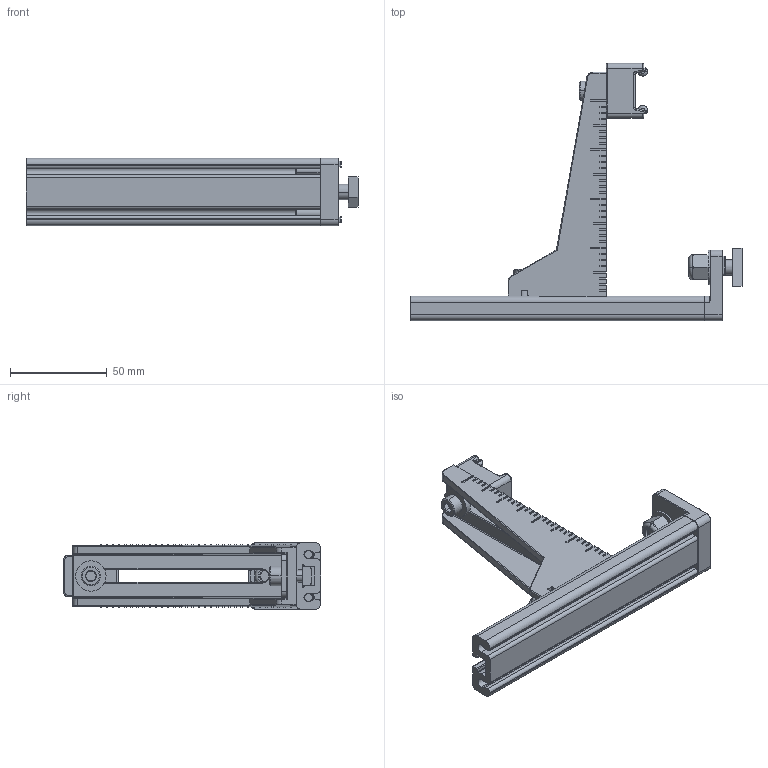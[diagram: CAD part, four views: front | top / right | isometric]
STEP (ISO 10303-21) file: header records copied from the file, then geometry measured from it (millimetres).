
FILE_DESCRIPTION((''),'2;1');
FILE_NAME('206193_ASM','2017-05-10T',('jenni.wallner'),(''),'PRO/ENGINEER BY PARAMETRIC TECHNOLOGY CORPORATION, 2012420','PRO/ENGINEER BY PARAMETRIC TECHNOLOGY CORPORATION, 2012420','');
FILE_SCHEMA(('CONFIG_CONTROL_DESIGN'));
Length unit declared in the file: inch
Products named in the file (17): 210848; 834-FATB-20; 990812M_4-1-SOLID1; 990812M_5-1-SOLID1; 990812M_ASM; 9205XXM_920516M; 210846-LLLLL_210846-00600; 210847; 206383_206383; 206397_206397; 207388; 807-920; 9206XXM_920622M; 605279P; 9206XXM_920616M; ASM0002_ASM; 206193_ASM
Assembly tree (18 placements, depth 4):
  206193_ASM
    ASM0002_ASM
      210848
      834-FATB-20
      990812M_ASM
        990812M_4-1-SOLID1
        990812M_5-1-SOLID1
      9205XXM_920516M  x2
      210846-LLLLL_210846-00600
      210847
      206383_206383
      206397_206397
      207388
      807-920  x2
      9206XXM_920622M
      605279P
      9206XXM_920616M
Bounding box: 171.98 x 133.31 x 34.92 mm (x, y, z)
Volume: 104954.8 mm3; surface area: 62207.7 mm2
Topology: 16 solids, 16 shells, 1058 faces, 2536 edges, 1497 vertices
Faces by surface type: plane 517, cylinder 270, cone 123, torus 91, bspline 39, sphere 14, revolution 4
Entity records: 35703 total; most frequent: CARTESIAN_POINT 11799, DIRECTION 4956, ORIENTED_EDGE 4870, EDGE_CURVE 2435, AXIS2_PLACEMENT_3D 1704, VECTOR 1544, LINE 1544, VERTEX_POINT 1453
